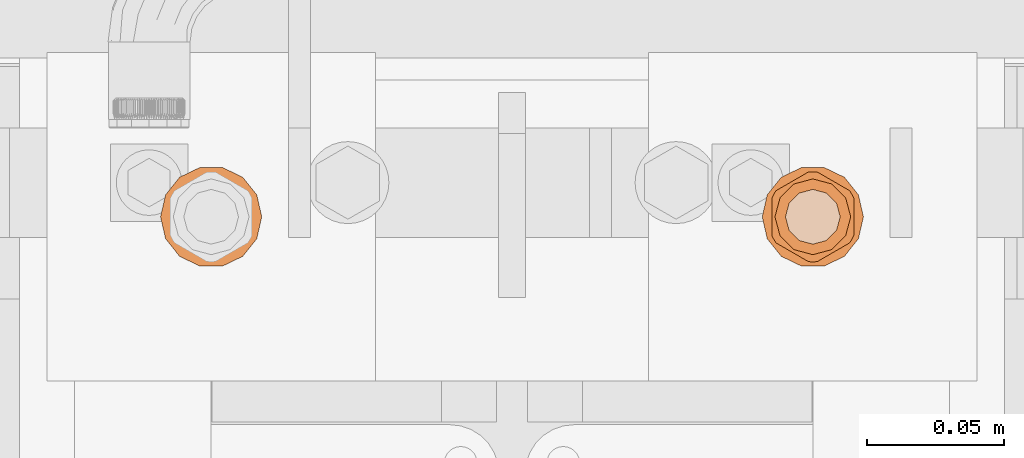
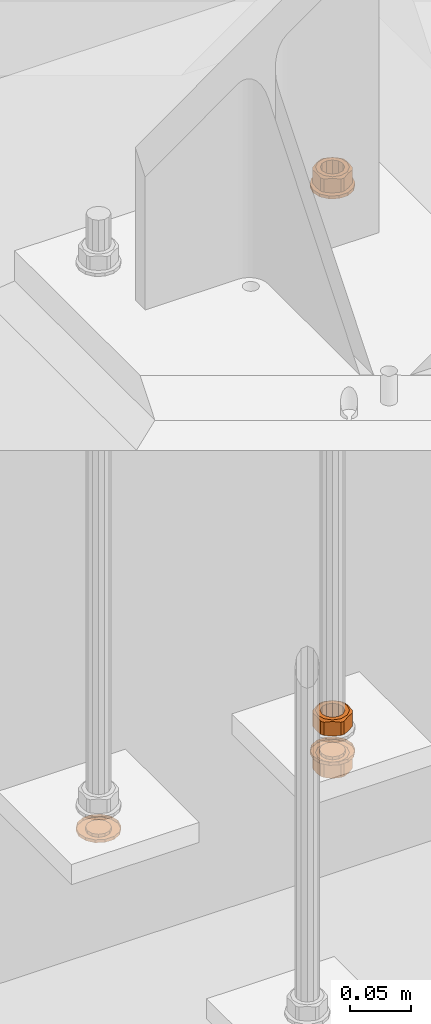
# One storey, part 136 of 145: 6 proxies.
"""IFC2X3 building model written with IfcOpenShell, lengths in millimetres."""

import ifcopenshell
import ifcopenshell.guid

model = None  # the IFC model being written
_history = None  # IfcOwnerHistory: only IFC2X3 demands one
_inside = {}  # id of a spatial element -> (the spatial element, [elements in it])
_under = {}  # id of a project, library or spatial element -> (it, [spatial elements below it])
_declared = {}  # id of a project -> (the project, [libraries it declares])
_typed = {}  # id of a type object -> (the type object, [elements of that type])
_made_of = {}  # id of a material, layer set ... -> (it, [elements and type objects made of it])


def new_model(schema):
    """Start an empty IFC model of exactly this schema.

    Asked for "IFC4X3", IfcOpenShell would pick the latest addendum, in which some entities
    have other attributes; the version numbers below select the first issue.
    IFC2X3 requires an IfcOwnerHistory on every rooted entity: one is made here for all.
    """
    global model, _history
    if schema == "IFC4X3":
        model = ifcopenshell.file(schema_version=(4, 3, 0, 0))
    else:
        model = ifcopenshell.file(schema=schema)
    _inside.clear()
    _under.clear()
    _declared.clear()
    _typed.clear()
    _made_of.clear()
    _history = None
    if model.schema == "IFC2X3":
        org = make("IfcOrganization", Name="unknown")
        user = make(
            "IfcPersonAndOrganization",
            ThePerson=make("IfcPerson", FamilyName="unknown"),
            TheOrganization=org,
        )
        app = make(
            "IfcApplication",
            ApplicationDeveloper=org,
            Version="unknown",
            ApplicationFullName="unknown",
            ApplicationIdentifier="unknown",
        )
        _history = make(
            "IfcOwnerHistory",
            OwningUser=user,
            OwningApplication=app,
            ChangeAction="ADDED",
            CreationDate=0,
        )
    return model


def make(cls, **values):
    """One entity of the class cls with the attributes given. An attribute that is None is left unset."""
    return model.create_entity(
        cls, **{name: value for name, value in values.items() if value is not None}
    )


def entity(cls, *values):
    """Any entity or typed value of the class cls, its attributes in the order of the schema. None: left unset."""
    e = model.create_entity(cls)
    for i, value in enumerate(values):
        if value is not None:
            e[i] = value
    return e


def rooted(cls, **values):
    """An entity with a GlobalId (a new one), such as an element, a storey or a relation."""
    return make(cls, GlobalId=ifcopenshell.guid.new(), OwnerHistory=_history, **values)


def si_unit(unit_type, name, prefix=None):
    """IfcSIUnit, for example si_unit("LENGTHUNIT", "METRE", prefix="MILLI")."""
    return make("IfcSIUnit", UnitType=unit_type, Prefix=prefix, Name=name)


def converted_unit(unit_type, name, factor, base, dimensions=None, offset=None):
    """IfcConversionBasedUnit, such as the inch: factor (a typed value) times the base unit."""
    return make(
        "IfcConversionBasedUnit"
        if offset is None
        else "IfcConversionBasedUnitWithOffset",
        ConversionOffset=offset,
        Dimensions=None
        if dimensions is None
        else entity("IfcDimensionalExponents", *dimensions),
        UnitType=unit_type,
        Name=name,
        ConversionFactor=make(
            "IfcMeasureWithUnit", ValueComponent=factor, UnitComponent=base
        ),
    )


def assignment(units):
    """IfcUnitAssignment: the units of a project."""
    return None if units is None else make("IfcUnitAssignment", Units=units)


def point(xyz):
    """IfcCartesianPoint."""
    return None if xyz is None else make("IfcCartesianPoint", Coordinates=xyz)


def direction(xyz):
    """IfcDirection."""
    return None if xyz is None else make("IfcDirection", DirectionRatios=xyz)


def frame(location, z_axis=None, x_axis=None):
    """IfcAxis2Placement3D, a coordinate frame: its origin and axes. An axis left out is left unset."""
    return make(
        "IfcAxis2Placement3D",
        Location=point(location),
        Axis=direction(z_axis),
        RefDirection=direction(x_axis),
    )


def origin_with_axes():
    """The frame at (0, 0, 0) with the z axis (0, 0, 1) and the x axis (1, 0, 0) written out."""
    return frame((0.0, 0.0, 0.0), z_axis=(0.0, 0.0, 1.0), x_axis=(1.0, 0.0, 0.0))


def place(relative_to, where):
    """IfcLocalPlacement: puts the frame where relative to a parent placement (None: the world)."""
    return make(
        "IfcLocalPlacement", PlacementRelTo=relative_to, RelativePlacement=where
    )


def context(
    kind, dimensions, precision=None, world=None, true_north=None, identifier=None
):
    """IfcGeometricRepresentationContext, for example the 3D "Model" context."""
    return make(
        "IfcGeometricRepresentationContext",
        ContextIdentifier=identifier,
        ContextType=kind,
        CoordinateSpaceDimension=dimensions,
        Precision=precision,
        WorldCoordinateSystem=world,
        TrueNorth=true_north,
    )


def project(units=None, contexts=None):
    """IfcProject with its units and contexts."""
    return rooted(
        "IfcProject",
        Name="project",
        RepresentationContexts=contexts,
        UnitsInContext=assignment(units),
    )


def spatial(cls, under=None, at=None, **own):
    """A site, building, storey or space (cls), placed at a placement, below another one or the project."""
    s = rooted(cls, ObjectPlacement=at, **own)
    if under is not None:
        _under.setdefault(under.id(), (under, []))[1].append(s)
    return s


def faces_of(points, faces, orient=None, outer=None):
    """IfcFace entities. A face is a list of loops; a loop is a list of indices into points, from 0.

    orient and outer hold one flag for each loop. By default every Orientation is true, the
    first loop of a face is its IfcFaceOuterBound and the others are IfcFaceBound.
    """
    made = []
    for i, loops in enumerate(faces):
        bounds = []
        for j, loop in enumerate(loops):
            is_outer = j == 0 if outer is None else outer[i][j]
            bounds.append(
                make(
                    "IfcFaceOuterBound" if is_outer else "IfcFaceBound",
                    Bound=make("IfcPolyLoop", Polygon=[points[k] for k in loop]),
                    Orientation=True if orient is None else orient[i][j],
                )
            )
        made.append(make("IfcFace", Bounds=bounds))
    return made


def faceted_brep(points, faces, orient=None, outer=None, voids=None):
    """IfcFacetedBrep: a solid bounded by flat faces; with voids (closed shells), ...WithVoids."""
    shared = [point(p) for p in points]
    hull = make("IfcClosedShell", CfsFaces=faces_of(shared, faces, orient, outer))
    if voids is None:
        return make("IfcFacetedBrep", Outer=hull)
    return make(
        "IfcFacetedBrepWithVoids",
        Outer=hull,
        Voids=[
            make(cls, CfsFaces=faces_of(shared, fs, o, b)) for cls, fs, o, b in voids
        ],
    )


def shape(context_of_items, identifier, shape_type, items):
    """IfcShapeRepresentation: the items that make up one representation, for example the "Body"."""
    return make(
        "IfcShapeRepresentation",
        ContextOfItems=context_of_items,
        RepresentationIdentifier=identifier,
        RepresentationType=shape_type,
        Items=items,
    )


def material(Name=None, Category=None):
    """IfcMaterial."""
    return make("IfcMaterial", Name=Name, Category=Category)


def made_of(thing, what):
    """Note that an element or type object is made of a material, layer set ...; save() writes the relation."""
    if what is not None:
        _made_of.setdefault(what.id(), (what, []))[1].append(thing)
    return thing


def element(
    cls,
    number,
    at=None,
    inside=None,
    cuts=None,
    type_object=None,
    material=None,
    context=None,
    identifier="Body",
    shape_type=None,
    held_by="IfcProductDefinitionShape",
    body=None,
    shapes=None,
    **own,
):
    """One element of the class cls, such as IfcWall. Its Tag is "e" and its number.

    at: its placement. inside: the storey or other place that contains it. cuts: it is an
    opening in that element (IfcRelVoidsElement). A single representation is given by context,
    identifier, shape_type and body (its items); several are given by shapes. held_by: the class
    of the entity that holds the representations. save() writes the other relations.
    """
    e = rooted(cls, Tag="e%d" % number, ObjectPlacement=at, **own)
    if body is not None:
        shapes = [shape(context, identifier, shape_type, body)]
    if shapes is not None:
        e.Representation = make(held_by, Representations=shapes)
    if inside is not None:
        _inside.setdefault(inside.id(), (inside, []))[1].append(e)
    if cuts is not None:
        rooted(
            "IfcRelVoidsElement", RelatingBuildingElement=cuts, RelatedOpeningElement=e
        )
    if type_object is not None:
        _typed.setdefault(type_object.id(), (type_object, []))[1].append(e)
    return made_of(e, material)


def aggregate(whole, parts):
    """IfcRelAggregates: a whole, such as a stair, and the parts it consists of."""
    return rooted("IfcRelAggregates", RelatingObject=whole, RelatedObjects=parts)


def save(model, path):
    """Write the relations noted so far, then the file.

    IfcRelAggregates (storeys below a building ...), IfcRelContainedInSpatialStructure (elements
    in a storey), IfcRelDefinesByType, IfcRelAssociatesMaterial and IfcRelDeclares: one each for
    every whole, place, type object, material and project.
    """
    for whole, parts in _under.values():
        aggregate(whole, parts)
    for where, things in _inside.values():
        rooted(
            "IfcRelContainedInSpatialStructure",
            RelatedElements=things,
            RelatingStructure=where,
        )
    for kind, things in _typed.values():
        rooted("IfcRelDefinesByType", RelatedObjects=things, RelatingType=kind)
    for what, things in _made_of.values():
        rooted("IfcRelAssociatesMaterial", RelatedObjects=things, RelatingMaterial=what)
    for by, libraries in _declared.values():
        rooted("IfcRelDeclares", RelatingContext=by, RelatedDefinitions=libraries)
    model.write(path)


model = new_model("IFC2X3")

# Units and contexts
model_context = context("Model", 3, precision=1e-09, world=origin_with_axes())
ifc_project = project(units=[si_unit("LENGTHUNIT", "METRE", prefix="MILLI"), si_unit("AREAUNIT", "SQUARE_METRE"), si_unit("VOLUMEUNIT", "CUBIC_METRE"), converted_unit("PLANEANGLEUNIT", "DEGREE", entity("IfcPlaneAngleMeasure", 0.01745329), si_unit("PLANEANGLEUNIT", "RADIAN"), dimensions=[0, 0, 0, 0, 0, 0, 0])], contexts=[model_context])

# Site, building, storey
site_placement = place(None, origin_with_axes())
site = spatial("IfcSite", under=ifc_project, at=site_placement, Name="BZ1 Grund- und Mittelschule 85716 Unterschlei?heim", CompositionType="ELEMENT")
building_placement = place(site_placement, origin_with_axes())
building = spatial("IfcBuilding", under=site, at=building_placement, Name="Struktur 1", CompositionType="ELEMENT")
storey_placement = place(building_placement, origin_with_axes())
storey = spatial("IfcBuildingStorey", under=building, at=storey_placement, Name="Default Storey", CompositionType="ELEMENT", Elevation=0.0)

# Proxies
ifc_material = material(Name="A2")
proxy_1_placement = place(None, origin_with_axes())
element("IfcBuildingElementProxy", 1, at=proxy_1_placement, inside=storey, material=ifc_material, ObjectType="-", context=model_context, shape_type="Brep", body=[
    faceted_brep([(16964.961364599, -1506.965833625, -1273.0), (16972.379288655, -1510.538117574, -1273.0), (16977.512651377, -1516.975150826, -1273.0), (16979.344727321, -1525.002, -1273.0), (16977.512651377, -1533.028849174, -1273.0), (16972.379288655, -1539.465882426, -1273.0), (16964.961364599, -1543.038166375, -1273.0), (16956.728090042, -1543.038166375, -1273.0), (16949.310165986, -1539.465882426, -1273.0), (16944.176803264, -1533.028849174, -1273.0), (16942.344727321, -1525.002, -1273.0), (16944.176803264, -1516.975150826, -1273.0), (16949.310165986, -1510.538117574, -1273.0), (16956.728090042, -1506.965833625, -1273.0), (16960.844727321, -1514.502, -1273.0), (16955.594727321, -1515.90873326, -1273.0), (16951.751460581, -1519.752, -1273.0), (16950.344727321, -1525.002, -1273.0), (16951.751460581, -1530.252, -1273.0), (16955.594727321, -1534.09526674, -1273.0), (16960.844727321, -1535.502, -1273.0), (16966.094727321, -1534.09526674, -1273.0), (16969.93799406, -1530.252, -1273.0), (16971.344727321, -1525.002, -1273.0), (16969.93799406, -1519.752, -1273.0), (16966.094727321, -1515.90873326, -1273.0), (16949.310165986, -1510.538117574, -1270.0), (16956.728090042, -1506.965833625, -1270.0), (16955.594727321, -1515.90873326, -1270.0), (16960.844727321, -1514.502, -1270.0), (16966.094727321, -1515.90873326, -1270.0), (16969.93799406, -1519.752, -1270.0), (16971.344727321, -1525.002, -1270.0), (16969.93799406, -1530.252, -1270.0), (16966.094727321, -1534.09526674, -1270.0), (16960.844727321, -1535.502, -1270.0), (16955.594727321, -1534.09526674, -1270.0), (16951.751460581, -1530.252, -1270.0), (16950.344727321, -1525.002, -1270.0), (16951.751460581, -1519.752, -1270.0), (16944.176803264, -1516.975150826, -1270.0), (16942.344727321, -1525.002, -1270.0), (16964.961364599, -1506.965833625, -1270.0), (16944.176803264, -1533.028849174, -1270.0), (16972.379288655, -1510.538117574, -1270.0), (16949.310165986, -1539.465882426, -1270.0), (16977.512651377, -1516.975150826, -1270.0), (16956.728090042, -1543.038166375, -1270.0), (16979.344727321, -1525.002, -1270.0), (16964.961364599, -1543.038166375, -1270.0), (16977.512651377, -1533.028849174, -1270.0), (16972.379288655, -1539.465882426, -1270.0)], [[[0, 1, 2, 3, 4, 5, 6, 7, 8, 9, 10, 11, 12, 13], [14, 15, 16, 17, 18, 19, 20, 21, 22, 23, 24, 25]], [[12, 26, 27, 13]], [[28, 29, 30, 31, 32, 33, 34, 35, 36, 37, 38, 39]], [[26, 12, 11, 40]], [[15, 28, 39, 16]], [[40, 11, 10, 41]], [[28, 15, 14, 29]], [[13, 27, 42, 0]], [[16, 39, 38, 17]], [[41, 10, 9, 43]], [[29, 14, 25, 30]], [[0, 42, 44, 1]], [[17, 38, 37, 18]], [[43, 9, 8, 45]], [[30, 25, 24, 31]], [[1, 44, 46, 2]], [[18, 37, 36, 19]], [[45, 8, 7, 47]], [[31, 24, 23, 32]], [[48, 3, 2, 46]], [[19, 36, 35, 20]], [[47, 7, 6, 49]], [[3, 48, 50, 4]], [[32, 23, 22, 33]], [[51, 5, 4, 50]], [[49, 6, 5, 51]], [[20, 35, 34, 21]], [[33, 22, 21, 34]]]),
])
proxy_2_placement = place(None, origin_with_axes())
element("IfcBuildingElementProxy", 2, at=proxy_2_placement, inside=storey, material=ifc_material, ObjectType="-", context=model_context, shape_type="Brep", body=[
    faceted_brep([(17195.371914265, -1532.772872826, -1245.484455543), (17194.838094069, -1533.697476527, -1245.484455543), (17192.839179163, -1531.927, -1247.0), (17195.371914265, -1532.772872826, -1232.515544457), (17194.838094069, -1533.697476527, -1232.515544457), (17194.245508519, -1534.585563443, -1245.484455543), (17194.245508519, -1534.585563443, -1232.515544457), (17195.844727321, -1531.815635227, -1245.484455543), (17195.844727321, -1531.815635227, -1232.515544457), (17192.839179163, -1531.927, -1231.0), (17195.844727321, -1525.002, -1246.33604719), (17194.694727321, -1525.002, -1247.0), (17188.344727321, -1537.992381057, -1246.33604719), (17188.344727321, -1537.992381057, -1231.66395281), (17182.443946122, -1541.39919867, -1232.515544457), (17182.443946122, -1541.39919867, -1245.484455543), (17181.378547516, -1541.468349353, -1245.484455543), (17181.378547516, -1541.468349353, -1232.515544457), (17180.310907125, -1541.468349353, -1232.515544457), (17180.310907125, -1541.468349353, -1245.484455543), (17195.844727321, -1518.188364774, -1245.484455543), (17195.844727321, -1518.188364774, -1232.515544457), (17195.844727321, -1525.002, -1231.66395281), (17187.769727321, -1513.007548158, -1247.0), (17192.839179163, -1518.077, -1247.0), (17187.769727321, -1536.996451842, -1247.0), (17180.844727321, -1538.852, -1247.0), (17173.919727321, -1536.996451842, -1247.0), (17168.850275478, -1531.927, -1247.0), (17166.994727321, -1525.002, -1247.0), (17168.850275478, -1518.077, -1247.0), (17173.919727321, -1513.007548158, -1247.0), (17180.844727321, -1511.152, -1247.0), (17190.844727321, -1525.002, -1247.0), (17189.504981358, -1520.002, -1247.0), (17185.844727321, -1516.341745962, -1247.0), (17180.844727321, -1515.002, -1247.0), (17175.844727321, -1516.341745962, -1247.0), (17172.184473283, -1520.002, -1247.0), (17170.844727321, -1525.002, -1247.0), (17172.184473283, -1530.002, -1247.0), (17175.844727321, -1533.662254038, -1247.0), (17180.844727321, -1535.002, -1247.0), (17185.844727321, -1533.662254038, -1247.0), (17189.504981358, -1530.002, -1247.0), (17189.504981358, -1530.002, -1231.0), (17185.844727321, -1533.662254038, -1231.0), (17187.769727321, -1536.996451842, -1231.0), (17180.844727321, -1538.852, -1231.0), (17195.371914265, -1517.231127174, -1245.484455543), (17195.371914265, -1517.231127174, -1232.515544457), (17194.694727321, -1525.002, -1231.0), (17192.839179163, -1518.077, -1231.0), (17187.769727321, -1513.007548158, -1231.0), (17180.844727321, -1511.152, -1231.0), (17173.919727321, -1513.007548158, -1231.0), (17168.850275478, -1518.077, -1231.0), (17166.994727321, -1525.002, -1231.0), (17168.850275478, -1531.927, -1231.0), (17173.919727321, -1536.996451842, -1231.0), (17190.844727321, -1525.002, -1231.0), (17180.844727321, -1535.002, -1231.0), (17175.844727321, -1533.662254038, -1231.0), (17172.184473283, -1530.002, -1231.0), (17170.844727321, -1525.002, -1231.0), (17172.184473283, -1520.002, -1231.0), (17175.844727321, -1516.341745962, -1231.0), (17180.844727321, -1515.002, -1231.0), (17185.844727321, -1516.341745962, -1231.0), (17189.504981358, -1520.002, -1231.0), (17179.245508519, -1541.39919867, -1245.484455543), (17179.245508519, -1541.39919867, -1232.515544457), (17194.838094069, -1516.306523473, -1245.484455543), (17194.838094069, -1516.306523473, -1232.515544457), (17173.344727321, -1537.992381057, -1246.33604719), (17173.344727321, -1537.992381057, -1231.66395281), (17167.443946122, -1534.585563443, -1232.515544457), (17167.443946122, -1534.585563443, -1245.484455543), (17194.245508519, -1515.418436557, -1245.484455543), (17194.245508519, -1515.418436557, -1232.515544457), (17188.344727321, -1512.011618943, -1246.33604719), (17182.443946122, -1508.60480133, -1245.484455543), (17182.443946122, -1508.60480133, -1232.515544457), (17188.344727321, -1512.011618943, -1231.66395281), (17166.851360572, -1533.697476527, -1232.515544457), (17166.851360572, -1533.697476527, -1245.484455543), (17166.317540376, -1532.772872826, -1232.515544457), (17166.317540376, -1532.772872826, -1245.484455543), (17181.378547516, -1508.535650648, -1245.484455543), (17181.378547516, -1508.535650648, -1232.515544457), (17180.310907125, -1508.535650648, -1245.484455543), (17180.310907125, -1508.535650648, -1232.515544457), (17165.844727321, -1531.815635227, -1232.515544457), (17165.844727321, -1531.815635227, -1245.484455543), (17179.245508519, -1508.60480133, -1245.484455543), (17179.245508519, -1508.60480133, -1232.515544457), (17165.844727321, -1525.002, -1246.33604719), (17173.344727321, -1512.011618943, -1246.33604719), (17167.443946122, -1515.418436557, -1245.484455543), (17167.443946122, -1515.418436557, -1232.515544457), (17173.344727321, -1512.011618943, -1231.66395281), (17165.844727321, -1525.002, -1231.66395281), (17165.844727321, -1518.188364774, -1232.515544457), (17165.844727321, -1518.188364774, -1245.484455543), (17166.317540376, -1517.231127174, -1245.484455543), (17166.317540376, -1517.231127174, -1232.515544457), (17166.851360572, -1516.306523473, -1245.484455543), (17166.851360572, -1516.306523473, -1232.515544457)], [[[0, 1, 2]], [[0, 3, 4, 1]], [[5, 2, 1]], [[1, 4, 6, 5]], [[7, 0, 2]], [[3, 0, 7, 8]], [[9, 4, 3]], [[10, 7, 11]], [[7, 2, 11]], [[5, 12, 2]], [[6, 13, 14, 15, 12, 5]], [[9, 6, 4]], [[16, 17, 18, 19]], [[17, 16, 15, 14]], [[10, 20, 21, 22, 8, 7]], [[9, 3, 8]], [[20, 10, 11]], [[23, 24, 11, 2, 25, 26, 27, 28, 29, 30, 31, 32], [33, 34, 35, 36, 37, 38, 39, 40, 41, 42, 43, 44]], [[16, 19, 26]], [[12, 25, 2]], [[45, 44, 43, 46]], [[9, 47, 6]], [[48, 17, 14]], [[49, 50, 21, 20]], [[51, 9, 8]], [[9, 51, 52, 53, 54, 55, 56, 57, 58, 59, 48, 47], [60, 45, 46, 61, 62, 63, 64, 65, 66, 67, 68, 69]], [[44, 45, 60, 33]], [[20, 24, 49]], [[20, 11, 24]], [[70, 26, 19]], [[12, 15, 25]], [[15, 16, 26]], [[48, 14, 13]], [[47, 13, 6]], [[19, 18, 71, 70]], [[48, 18, 17]], [[72, 73, 50, 49]], [[51, 8, 22]], [[72, 49, 24]], [[70, 74, 26]], [[15, 26, 25]], [[46, 43, 42, 61]], [[47, 48, 13]], [[48, 71, 18]], [[71, 75, 76, 77, 74, 70]], [[33, 60, 69, 34]], [[78, 79, 73, 72]], [[52, 50, 73]], [[51, 22, 21]], [[52, 21, 50]], [[78, 72, 24]], [[74, 27, 26]], [[48, 59, 71]], [[80, 81, 82, 83, 79, 78]], [[52, 73, 79]], [[52, 51, 21]], [[78, 24, 23]], [[74, 77, 27]], [[61, 42, 41, 62]], [[59, 75, 71]], [[77, 76, 84, 85]], [[34, 69, 68, 35]], [[52, 79, 83]], [[80, 78, 23]], [[81, 80, 32]], [[77, 28, 27]], [[59, 58, 75]], [[58, 76, 75]], [[77, 85, 28]], [[85, 84, 86, 87]], [[88, 89, 82, 81]], [[53, 52, 83]], [[80, 23, 32]], [[81, 32, 88]], [[62, 41, 40, 63]], [[58, 84, 76]], [[85, 87, 28]], [[35, 68, 67, 36]], [[90, 91, 89, 88]], [[53, 83, 82]], [[54, 82, 89]], [[90, 88, 32]], [[86, 84, 58]], [[87, 86, 92, 93]], [[93, 28, 87]], [[39, 64, 63, 40]], [[91, 90, 94, 95]], [[54, 89, 91]], [[54, 53, 82]], [[94, 90, 32]], [[92, 86, 58]], [[93, 96, 28]], [[64, 39, 38, 65]], [[37, 66, 65, 38]], [[36, 67, 66, 37]], [[54, 91, 95]], [[94, 32, 31]], [[97, 98, 99, 100, 95, 94]], [[96, 29, 28]], [[92, 58, 57]], [[92, 101, 102, 103, 96, 93]], [[54, 95, 100]], [[97, 94, 31]], [[96, 103, 29]], [[101, 92, 57]], [[55, 54, 100]], [[97, 31, 30]], [[103, 30, 29]], [[101, 57, 56]], [[55, 100, 99]], [[98, 97, 30]], [[103, 104, 30]], [[103, 102, 105, 104]], [[102, 101, 56]], [[99, 56, 55]], [[98, 30, 106]], [[99, 98, 106, 107]], [[104, 106, 30]], [[102, 56, 105]], [[99, 107, 56]], [[104, 105, 107, 106]], [[107, 105, 56]]]),
])
proxy_3_placement = place(None, origin_with_axes())
element("IfcBuildingElementProxy", 3, at=proxy_3_placement, inside=storey, material=ifc_material, ObjectType="-", context=model_context, shape_type="Brep", body=[
    faceted_brep([(17194.838094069, -1533.697476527, -1274.515544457), (17195.371914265, -1532.772872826, -1274.515544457), (17192.839179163, -1531.927, -1273.0), (17195.371914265, -1532.772872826, -1287.484455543), (17194.838094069, -1533.697476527, -1287.484455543), (17194.245508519, -1534.585563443, -1274.515544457), (17194.245508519, -1534.585563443, -1287.484455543), (17195.844727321, -1531.815635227, -1274.515544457), (17195.844727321, -1531.815635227, -1287.484455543), (17192.839179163, -1531.927, -1289.0), (17195.844727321, -1525.002, -1273.66395281), (17194.694727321, -1525.002, -1273.0), (17188.344727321, -1537.992381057, -1273.66395281), (17188.344727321, -1537.992381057, -1288.33604719), (17182.443946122, -1541.39919867, -1274.515544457), (17182.443946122, -1541.39919867, -1287.484455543), (17181.378547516, -1541.468349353, -1287.484455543), (17181.378547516, -1541.468349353, -1274.515544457), (17180.310907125, -1541.468349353, -1274.515544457), (17180.310907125, -1541.468349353, -1287.484455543), (17195.844727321, -1518.188364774, -1274.515544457), (17195.844727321, -1525.002, -1288.33604719), (17195.844727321, -1518.188364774, -1287.484455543), (17192.839179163, -1518.077, -1273.0), (17187.769727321, -1513.007548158, -1273.0), (17180.844727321, -1511.152, -1273.0), (17173.919727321, -1513.007548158, -1273.0), (17168.850275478, -1518.077, -1273.0), (17166.994727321, -1525.002, -1273.0), (17168.850275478, -1531.927, -1273.0), (17173.919727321, -1536.996451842, -1273.0), (17180.844727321, -1538.852, -1273.0), (17187.769727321, -1536.996451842, -1273.0), (17190.844727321, -1525.002, -1273.0), (17189.504981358, -1530.002, -1273.0), (17185.844727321, -1533.662254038, -1273.0), (17180.844727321, -1535.002, -1273.0), (17175.844727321, -1533.662254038, -1273.0), (17172.184473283, -1530.002, -1273.0), (17170.844727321, -1525.002, -1273.0), (17172.184473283, -1520.002, -1273.0), (17175.844727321, -1516.341745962, -1273.0), (17180.844727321, -1515.002, -1273.0), (17185.844727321, -1516.341745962, -1273.0), (17189.504981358, -1520.002, -1273.0), (17189.504981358, -1530.002, -1289.0), (17185.844727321, -1533.662254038, -1289.0), (17187.769727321, -1536.996451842, -1289.0), (17180.844727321, -1538.852, -1289.0), (17195.371914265, -1517.231127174, -1287.484455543), (17195.371914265, -1517.231127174, -1274.515544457), (17194.694727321, -1525.002, -1289.0), (17190.844727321, -1525.002, -1289.0), (17189.504981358, -1520.002, -1289.0), (17185.844727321, -1516.341745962, -1289.0), (17180.844727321, -1515.002, -1289.0), (17175.844727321, -1516.341745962, -1289.0), (17172.184473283, -1520.002, -1289.0), (17170.844727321, -1525.002, -1289.0), (17172.184473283, -1530.002, -1289.0), (17175.844727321, -1533.662254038, -1289.0), (17180.844727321, -1535.002, -1289.0), (17179.245508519, -1541.39919867, -1274.515544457), (17179.245508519, -1541.39919867, -1287.484455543), (17194.838094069, -1516.306523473, -1287.484455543), (17194.838094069, -1516.306523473, -1274.515544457), (17173.344727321, -1537.992381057, -1273.66395281), (17173.344727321, -1537.992381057, -1288.33604719), (17167.443946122, -1534.585563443, -1274.515544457), (17167.443946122, -1534.585563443, -1287.484455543), (17194.245508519, -1515.418436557, -1287.484455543), (17194.245508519, -1515.418436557, -1274.515544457), (17192.839179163, -1518.077, -1289.0), (17173.919727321, -1536.996451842, -1289.0), (17182.443946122, -1508.60480133, -1274.515544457), (17188.344727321, -1512.011618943, -1273.66395281), (17188.344727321, -1512.011618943, -1288.33604719), (17182.443946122, -1508.60480133, -1287.484455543), (17166.851360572, -1533.697476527, -1274.515544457), (17166.851360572, -1533.697476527, -1287.484455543), (17168.850275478, -1531.927, -1289.0), (17166.317540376, -1532.772872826, -1274.515544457), (17166.317540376, -1532.772872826, -1287.484455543), (17181.378547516, -1508.535650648, -1287.484455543), (17181.378547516, -1508.535650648, -1274.515544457), (17187.769727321, -1513.007548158, -1289.0), (17180.310907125, -1508.535650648, -1287.484455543), (17180.310907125, -1508.535650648, -1274.515544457), (17180.844727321, -1511.152, -1289.0), (17165.844727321, -1531.815635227, -1274.515544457), (17165.844727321, -1531.815635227, -1287.484455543), (17179.245508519, -1508.60480133, -1287.484455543), (17179.245508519, -1508.60480133, -1274.515544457), (17165.844727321, -1525.002, -1273.66395281), (17167.443946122, -1515.418436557, -1274.515544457), (17173.344727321, -1512.011618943, -1273.66395281), (17173.344727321, -1512.011618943, -1288.33604719), (17167.443946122, -1515.418436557, -1287.484455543), (17166.994727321, -1525.002, -1289.0), (17165.844727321, -1525.002, -1288.33604719), (17165.844727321, -1518.188364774, -1274.515544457), (17165.844727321, -1518.188364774, -1287.484455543), (17173.919727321, -1513.007548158, -1289.0), (17168.850275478, -1518.077, -1289.0), (17166.317540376, -1517.231127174, -1274.515544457), (17166.317540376, -1517.231127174, -1287.484455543), (17166.851360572, -1516.306523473, -1274.515544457), (17166.851360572, -1516.306523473, -1287.484455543)], [[[0, 1, 2]], [[3, 1, 0, 4]], [[2, 5, 0]], [[4, 0, 5, 6]], [[1, 7, 2]], [[1, 3, 8, 7]], [[4, 9, 3]], [[7, 10, 11]], [[2, 7, 11]], [[12, 5, 2]], [[13, 6, 5, 12, 14, 15]], [[6, 9, 4]], [[16, 17, 18, 19]], [[17, 16, 15, 14]], [[20, 10, 7, 8, 21, 22]], [[3, 9, 8]], [[10, 20, 11]], [[23, 24, 25, 26, 27, 28, 29, 30, 31, 32, 2, 11], [33, 34, 35, 36, 37, 38, 39, 40, 41, 42, 43, 44]], [[18, 17, 31]], [[32, 12, 2]], [[34, 45, 46, 35]], [[47, 9, 6]], [[16, 48, 15]], [[49, 50, 20, 22]], [[9, 51, 8]], [[45, 52, 53, 54, 55, 56, 57, 58, 59, 60, 61, 46]], [[45, 34, 33, 52]], [[23, 20, 50]], [[11, 20, 23]], [[31, 62, 18]], [[14, 12, 32]], [[17, 14, 31]], [[15, 48, 13]], [[13, 47, 6]], [[19, 18, 62, 63]], [[19, 48, 16]], [[64, 65, 50, 49]], [[8, 51, 21]], [[50, 65, 23]], [[66, 62, 31]], [[31, 14, 32]], [[35, 46, 61, 36]], [[48, 47, 13]], [[63, 48, 19]], [[67, 63, 62, 66, 68, 69]], [[52, 33, 44, 53]], [[70, 71, 65, 64]], [[49, 72, 64]], [[21, 51, 22]], [[22, 72, 49]], [[65, 71, 23]], [[30, 66, 31]], [[73, 48, 63]], [[74, 75, 71, 70, 76, 77]], [[64, 72, 70]], [[51, 72, 22]], [[23, 71, 24]], [[68, 66, 30]], [[36, 61, 60, 37]], [[67, 73, 63]], [[69, 68, 78, 79]], [[53, 44, 43, 54]], [[70, 72, 76]], [[71, 75, 24]], [[75, 74, 25]], [[29, 68, 30]], [[80, 73, 67]], [[69, 80, 67]], [[78, 68, 29]], [[79, 78, 81, 82]], [[83, 84, 74, 77]], [[72, 85, 76]], [[24, 75, 25]], [[25, 74, 84]], [[37, 60, 59, 38]], [[79, 80, 69]], [[81, 78, 29]], [[54, 43, 42, 55]], [[86, 87, 84, 83]], [[76, 85, 77]], [[77, 88, 83]], [[84, 87, 25]], [[79, 82, 80]], [[82, 81, 89, 90]], [[29, 89, 81]], [[58, 39, 38, 59]], [[87, 86, 91, 92]], [[83, 88, 86]], [[85, 88, 77]], [[87, 92, 25]], [[82, 90, 80]], [[93, 89, 29]], [[39, 58, 57, 40]], [[56, 41, 40, 57]], [[55, 42, 41, 56]], [[86, 88, 91]], [[25, 92, 26]], [[94, 95, 92, 91, 96, 97]], [[28, 93, 29]], [[80, 90, 98]], [[99, 90, 89, 93, 100, 101]], [[91, 88, 96]], [[92, 95, 26]], [[100, 93, 28]], [[90, 99, 98]], [[88, 102, 96]], [[26, 95, 27]], [[27, 100, 28]], [[98, 99, 103]], [[96, 102, 97]], [[95, 94, 27]], [[104, 100, 27]], [[101, 100, 104, 105]], [[99, 101, 103]], [[103, 97, 102]], [[27, 94, 106]], [[94, 97, 107, 106]], [[106, 104, 27]], [[103, 101, 105]], [[107, 97, 103]], [[105, 104, 106, 107]], [[105, 107, 103]]]),
])
proxy_4_placement = place(None, origin_with_axes())
element("IfcBuildingElementProxy", 4, at=proxy_4_placement, inside=storey, material=ifc_material, ObjectType="-", context=model_context, shape_type="Brep", body=[
    faceted_brep([(17184.961364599, -1506.965833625, -1273.0), (17192.379288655, -1510.538117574, -1273.0), (17197.512651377, -1516.975150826, -1273.0), (17199.344727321, -1525.002, -1273.0), (17197.512651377, -1533.028849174, -1273.0), (17192.379288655, -1539.465882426, -1273.0), (17184.961364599, -1543.038166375, -1273.0), (17176.728090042, -1543.038166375, -1273.0), (17169.310165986, -1539.465882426, -1273.0), (17164.176803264, -1533.028849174, -1273.0), (17162.344727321, -1525.002, -1273.0), (17164.176803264, -1516.975150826, -1273.0), (17169.310165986, -1510.538117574, -1273.0), (17176.728090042, -1506.965833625, -1273.0), (17180.844727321, -1514.502, -1273.0), (17175.594727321, -1515.90873326, -1273.0), (17171.751460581, -1519.752, -1273.0), (17170.344727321, -1525.002, -1273.0), (17171.751460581, -1530.252, -1273.0), (17175.594727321, -1534.09526674, -1273.0), (17180.844727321, -1535.502, -1273.0), (17186.094727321, -1534.09526674, -1273.0), (17189.93799406, -1530.252, -1273.0), (17191.344727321, -1525.002, -1273.0), (17189.93799406, -1519.752, -1273.0), (17186.094727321, -1515.90873326, -1273.0), (17169.310165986, -1510.538117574, -1270.0), (17176.728090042, -1506.965833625, -1270.0), (17175.594727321, -1515.90873326, -1270.0), (17180.844727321, -1514.502, -1270.0), (17186.094727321, -1515.90873326, -1270.0), (17189.93799406, -1519.752, -1270.0), (17191.344727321, -1525.002, -1270.0), (17189.93799406, -1530.252, -1270.0), (17186.094727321, -1534.09526674, -1270.0), (17180.844727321, -1535.502, -1270.0), (17175.594727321, -1534.09526674, -1270.0), (17171.751460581, -1530.252, -1270.0), (17170.344727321, -1525.002, -1270.0), (17171.751460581, -1519.752, -1270.0), (17164.176803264, -1516.975150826, -1270.0), (17162.344727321, -1525.002, -1270.0), (17184.961364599, -1506.965833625, -1270.0), (17164.176803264, -1533.028849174, -1270.0), (17192.379288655, -1510.538117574, -1270.0), (17169.310165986, -1539.465882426, -1270.0), (17197.512651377, -1516.975150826, -1270.0), (17176.728090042, -1543.038166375, -1270.0), (17199.344727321, -1525.002, -1270.0), (17184.961364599, -1543.038166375, -1270.0), (17197.512651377, -1533.028849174, -1270.0), (17192.379288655, -1539.465882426, -1270.0)], [[[0, 1, 2, 3, 4, 5, 6, 7, 8, 9, 10, 11, 12, 13], [14, 15, 16, 17, 18, 19, 20, 21, 22, 23, 24, 25]], [[12, 26, 27, 13]], [[28, 29, 30, 31, 32, 33, 34, 35, 36, 37, 38, 39]], [[26, 12, 11, 40]], [[15, 28, 39, 16]], [[40, 11, 10, 41]], [[28, 15, 14, 29]], [[13, 27, 42, 0]], [[16, 39, 38, 17]], [[41, 10, 9, 43]], [[29, 14, 25, 30]], [[0, 42, 44, 1]], [[17, 38, 37, 18]], [[43, 9, 8, 45]], [[30, 25, 24, 31]], [[1, 44, 46, 2]], [[18, 37, 36, 19]], [[45, 8, 7, 47]], [[31, 24, 23, 32]], [[48, 3, 2, 46]], [[19, 36, 35, 20]], [[47, 7, 6, 49]], [[3, 48, 50, 4]], [[32, 23, 22, 33]], [[51, 5, 4, 50]], [[49, 6, 5, 51]], [[20, 35, 34, 21]], [[33, 22, 21, 34]]]),
])
proxy_5_placement = place(None, origin_with_axes())
element("IfcBuildingElementProxy", 5, at=proxy_5_placement, inside=storey, material=ifc_material, ObjectType="-", context=model_context, shape_type="Brep", body=[
    faceted_brep([(17192.379288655, -1510.538117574, -707.0), (17184.961364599, -1506.965833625, -707.0), (17176.728090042, -1506.965833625, -707.0), (17169.310165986, -1510.538117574, -707.0), (17164.176803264, -1516.975150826, -707.0), (17162.344727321, -1525.002, -707.0), (17164.176803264, -1533.028849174, -707.0), (17169.310165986, -1539.465882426, -707.0), (17176.728090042, -1543.038166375, -707.0), (17184.961364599, -1543.038166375, -707.0), (17192.379288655, -1539.465882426, -707.0), (17197.512651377, -1533.028849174, -707.0), (17199.344727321, -1525.002, -707.0), (17197.512651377, -1516.975150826, -707.0), (17180.844727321, -1514.502, -707.0), (17186.094727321, -1515.90873326, -707.0), (17189.93799406, -1519.752, -707.0), (17191.344727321, -1525.002, -707.0), (17189.93799406, -1530.252, -707.0), (17186.094727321, -1534.09526674, -707.0), (17180.844727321, -1535.502, -707.0), (17175.594727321, -1534.09526674, -707.0), (17171.751460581, -1530.252, -707.0), (17170.344727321, -1525.002, -707.0), (17171.751460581, -1519.752, -707.0), (17175.594727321, -1515.90873326, -707.0), (17169.310165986, -1510.538117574, -710.0), (17176.728090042, -1506.965833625, -710.0), (17184.961364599, -1506.965833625, -710.0), (17192.379288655, -1510.538117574, -710.0), (17197.512651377, -1516.975150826, -710.0), (17199.344727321, -1525.002, -710.0), (17197.512651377, -1533.028849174, -710.0), (17192.379288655, -1539.465882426, -710.0), (17184.961364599, -1543.038166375, -710.0), (17176.728090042, -1543.038166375, -710.0), (17169.310165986, -1539.465882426, -710.0), (17164.176803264, -1533.028849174, -710.0), (17162.344727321, -1525.002, -710.0), (17164.176803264, -1516.975150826, -710.0), (17180.844727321, -1514.502, -710.0), (17175.594727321, -1515.90873326, -710.0), (17171.751460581, -1519.752, -710.0), (17170.344727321, -1525.002, -710.0), (17171.751460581, -1530.252, -710.0), (17175.594727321, -1534.09526674, -710.0), (17180.844727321, -1535.502, -710.0), (17186.094727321, -1534.09526674, -710.0), (17189.93799406, -1530.252, -710.0), (17191.344727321, -1525.002, -710.0), (17189.93799406, -1519.752, -710.0), (17186.094727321, -1515.90873326, -710.0)], [[[0, 1, 2, 3, 4, 5, 6, 7, 8, 9, 10, 11, 12, 13], [14, 15, 16, 17, 18, 19, 20, 21, 22, 23, 24, 25]], [[26, 3, 2, 27]], [[26, 27, 28, 29, 30, 31, 32, 33, 34, 35, 36, 37, 38, 39], [40, 41, 42, 43, 44, 45, 46, 47, 48, 49, 50, 51]], [[3, 26, 39, 4]], [[41, 25, 24, 42]], [[4, 39, 38, 5]], [[25, 41, 40, 14]], [[27, 2, 1, 28]], [[42, 24, 23, 43]], [[5, 38, 37, 6]], [[14, 40, 51, 15]], [[28, 1, 0, 29]], [[43, 23, 22, 44]], [[6, 37, 36, 7]], [[15, 51, 50, 16]], [[29, 0, 13, 30]], [[44, 22, 21, 45]], [[7, 36, 35, 8]], [[16, 50, 49, 17]], [[12, 31, 30, 13]], [[45, 21, 20, 46]], [[8, 35, 34, 9]], [[31, 12, 11, 32]], [[17, 49, 48, 18]], [[10, 33, 32, 11]], [[9, 34, 33, 10]], [[46, 20, 19, 47]], [[18, 48, 47, 19]]]),
])
proxy_6_placement = place(None, origin_with_axes())
element("IfcBuildingElementProxy", 6, at=proxy_6_placement, inside=storey, material=ifc_material, ObjectType="-", context=model_context, shape_type="Brep", body=[
    faceted_brep([(17195.371914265, -1532.772872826, -705.484455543), (17194.838094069, -1533.697476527, -705.484455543), (17192.839179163, -1531.927, -707.0), (17195.371914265, -1532.772872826, -692.515544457), (17194.838094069, -1533.697476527, -692.515544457), (17194.245508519, -1534.585563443, -705.484455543), (17194.245508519, -1534.585563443, -692.515544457), (17195.844727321, -1531.815635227, -705.484455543), (17195.844727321, -1531.815635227, -692.515544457), (17192.839179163, -1531.927, -691.0), (17195.844727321, -1525.002, -706.33604719), (17194.694727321, -1525.002, -707.0), (17188.344727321, -1537.992381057, -706.33604719), (17188.344727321, -1537.992381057, -691.66395281), (17182.443946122, -1541.39919867, -692.515544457), (17182.443946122, -1541.39919867, -705.484455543), (17181.378547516, -1541.468349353, -705.484455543), (17181.378547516, -1541.468349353, -692.515544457), (17180.310907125, -1541.468349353, -692.515544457), (17180.310907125, -1541.468349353, -705.484455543), (17195.844727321, -1518.188364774, -705.484455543), (17195.844727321, -1518.188364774, -692.515544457), (17195.844727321, -1525.002, -691.66395281), (17187.769727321, -1513.007548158, -707.0), (17192.839179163, -1518.077, -707.0), (17187.769727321, -1536.996451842, -707.0), (17180.844727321, -1538.852, -707.0), (17173.919727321, -1536.996451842, -707.0), (17168.850275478, -1531.927, -707.0), (17166.994727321, -1525.002, -707.0), (17168.850275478, -1518.077, -707.0), (17173.919727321, -1513.007548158, -707.0), (17180.844727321, -1511.152, -707.0), (17190.844727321, -1525.002, -707.0), (17189.504981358, -1520.002, -707.0), (17185.844727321, -1516.341745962, -707.0), (17180.844727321, -1515.002, -707.0), (17175.844727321, -1516.341745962, -707.0), (17172.184473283, -1520.002, -707.0), (17170.844727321, -1525.002, -707.0), (17172.184473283, -1530.002, -707.0), (17175.844727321, -1533.662254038, -707.0), (17180.844727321, -1535.002, -707.0), (17185.844727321, -1533.662254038, -707.0), (17189.504981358, -1530.002, -707.0), (17189.504981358, -1530.002, -691.0), (17185.844727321, -1533.662254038, -691.0), (17187.769727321, -1536.996451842, -691.0), (17180.844727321, -1538.852, -691.0), (17195.371914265, -1517.231127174, -705.484455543), (17195.371914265, -1517.231127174, -692.515544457), (17194.694727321, -1525.002, -691.0), (17192.839179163, -1518.077, -691.0), (17187.769727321, -1513.007548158, -691.0), (17180.844727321, -1511.152, -691.0), (17173.919727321, -1513.007548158, -691.0), (17168.850275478, -1518.077, -691.0), (17166.994727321, -1525.002, -691.0), (17168.850275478, -1531.927, -691.0), (17173.919727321, -1536.996451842, -691.0), (17190.844727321, -1525.002, -691.0), (17180.844727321, -1535.002, -691.0), (17175.844727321, -1533.662254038, -691.0), (17172.184473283, -1530.002, -691.0), (17170.844727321, -1525.002, -691.0), (17172.184473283, -1520.002, -691.0), (17175.844727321, -1516.341745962, -691.0), (17180.844727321, -1515.002, -691.0), (17185.844727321, -1516.341745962, -691.0), (17189.504981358, -1520.002, -691.0), (17179.245508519, -1541.39919867, -705.484455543), (17179.245508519, -1541.39919867, -692.515544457), (17194.838094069, -1516.306523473, -705.484455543), (17194.838094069, -1516.306523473, -692.515544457), (17173.344727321, -1537.992381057, -706.33604719), (17173.344727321, -1537.992381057, -691.66395281), (17167.443946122, -1534.585563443, -692.515544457), (17167.443946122, -1534.585563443, -705.484455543), (17194.245508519, -1515.418436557, -705.484455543), (17194.245508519, -1515.418436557, -692.515544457), (17188.344727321, -1512.011618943, -706.33604719), (17182.443946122, -1508.60480133, -705.484455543), (17182.443946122, -1508.60480133, -692.515544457), (17188.344727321, -1512.011618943, -691.66395281), (17166.851360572, -1533.697476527, -692.515544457), (17166.851360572, -1533.697476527, -705.484455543), (17166.317540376, -1532.772872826, -692.515544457), (17166.317540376, -1532.772872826, -705.484455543), (17181.378547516, -1508.535650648, -705.484455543), (17181.378547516, -1508.535650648, -692.515544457), (17180.310907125, -1508.535650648, -705.484455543), (17180.310907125, -1508.535650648, -692.515544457), (17165.844727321, -1531.815635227, -692.515544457), (17165.844727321, -1531.815635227, -705.484455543), (17179.245508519, -1508.60480133, -705.484455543), (17179.245508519, -1508.60480133, -692.515544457), (17165.844727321, -1525.002, -706.33604719), (17173.344727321, -1512.011618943, -706.33604719), (17167.443946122, -1515.418436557, -705.484455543), (17167.443946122, -1515.418436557, -692.515544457), (17173.344727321, -1512.011618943, -691.66395281), (17165.844727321, -1525.002, -691.66395281), (17165.844727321, -1518.188364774, -692.515544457), (17165.844727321, -1518.188364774, -705.484455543), (17166.317540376, -1517.231127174, -705.484455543), (17166.317540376, -1517.231127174, -692.515544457), (17166.851360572, -1516.306523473, -705.484455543), (17166.851360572, -1516.306523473, -692.515544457)], [[[0, 1, 2]], [[0, 3, 4, 1]], [[5, 2, 1]], [[1, 4, 6, 5]], [[7, 0, 2]], [[3, 0, 7, 8]], [[9, 4, 3]], [[10, 7, 11]], [[7, 2, 11]], [[5, 12, 2]], [[6, 13, 14, 15, 12, 5]], [[9, 6, 4]], [[16, 17, 18, 19]], [[17, 16, 15, 14]], [[10, 20, 21, 22, 8, 7]], [[9, 3, 8]], [[20, 10, 11]], [[23, 24, 11, 2, 25, 26, 27, 28, 29, 30, 31, 32], [33, 34, 35, 36, 37, 38, 39, 40, 41, 42, 43, 44]], [[16, 19, 26]], [[12, 25, 2]], [[45, 44, 43, 46]], [[9, 47, 6]], [[48, 17, 14]], [[49, 50, 21, 20]], [[51, 9, 8]], [[9, 51, 52, 53, 54, 55, 56, 57, 58, 59, 48, 47], [60, 45, 46, 61, 62, 63, 64, 65, 66, 67, 68, 69]], [[44, 45, 60, 33]], [[20, 24, 49]], [[20, 11, 24]], [[70, 26, 19]], [[12, 15, 25]], [[15, 16, 26]], [[48, 14, 13]], [[47, 13, 6]], [[19, 18, 71, 70]], [[48, 18, 17]], [[72, 73, 50, 49]], [[51, 8, 22]], [[72, 49, 24]], [[70, 74, 26]], [[15, 26, 25]], [[46, 43, 42, 61]], [[47, 48, 13]], [[48, 71, 18]], [[71, 75, 76, 77, 74, 70]], [[33, 60, 69, 34]], [[78, 79, 73, 72]], [[52, 50, 73]], [[51, 22, 21]], [[52, 21, 50]], [[78, 72, 24]], [[74, 27, 26]], [[48, 59, 71]], [[80, 81, 82, 83, 79, 78]], [[52, 73, 79]], [[52, 51, 21]], [[78, 24, 23]], [[74, 77, 27]], [[61, 42, 41, 62]], [[59, 75, 71]], [[77, 76, 84, 85]], [[34, 69, 68, 35]], [[52, 79, 83]], [[80, 78, 23]], [[81, 80, 32]], [[77, 28, 27]], [[59, 58, 75]], [[58, 76, 75]], [[77, 85, 28]], [[85, 84, 86, 87]], [[88, 89, 82, 81]], [[53, 52, 83]], [[80, 23, 32]], [[81, 32, 88]], [[62, 41, 40, 63]], [[58, 84, 76]], [[85, 87, 28]], [[35, 68, 67, 36]], [[90, 91, 89, 88]], [[53, 83, 82]], [[54, 82, 89]], [[90, 88, 32]], [[86, 84, 58]], [[87, 86, 92, 93]], [[93, 28, 87]], [[39, 64, 63, 40]], [[91, 90, 94, 95]], [[54, 89, 91]], [[54, 53, 82]], [[94, 90, 32]], [[92, 86, 58]], [[93, 96, 28]], [[64, 39, 38, 65]], [[37, 66, 65, 38]], [[36, 67, 66, 37]], [[54, 91, 95]], [[94, 32, 31]], [[97, 98, 99, 100, 95, 94]], [[96, 29, 28]], [[92, 58, 57]], [[92, 101, 102, 103, 96, 93]], [[54, 95, 100]], [[97, 94, 31]], [[96, 103, 29]], [[101, 92, 57]], [[55, 54, 100]], [[97, 31, 30]], [[103, 30, 29]], [[101, 57, 56]], [[55, 100, 99]], [[98, 97, 30]], [[103, 104, 30]], [[103, 102, 105, 104]], [[102, 101, 56]], [[99, 56, 55]], [[98, 30, 106]], [[99, 98, 106, 107]], [[104, 106, 30]], [[102, 56, 105]], [[99, 107, 56]], [[104, 105, 107, 106]], [[107, 105, 56]]]),
])

save(model, "model.ifc")
